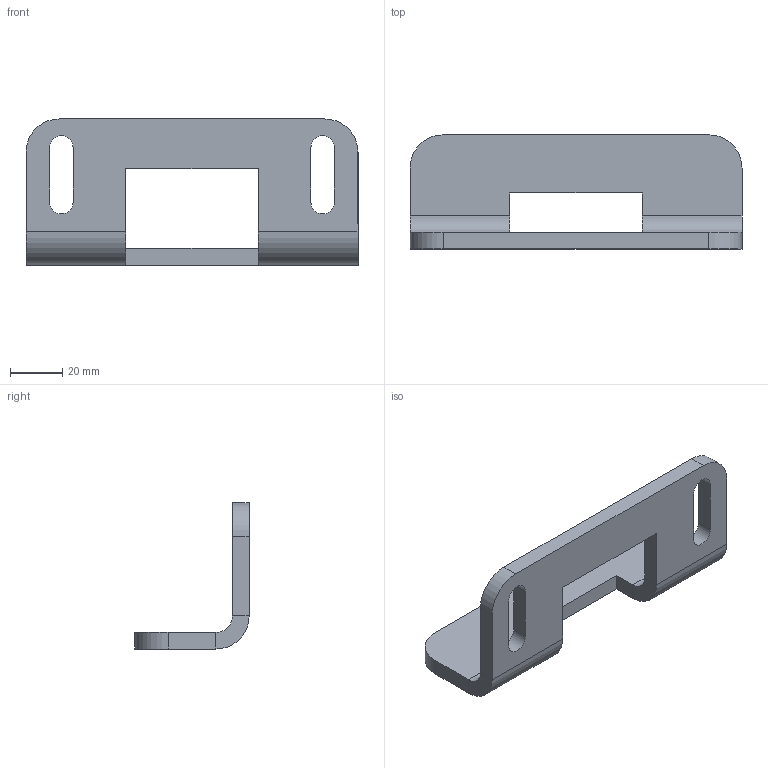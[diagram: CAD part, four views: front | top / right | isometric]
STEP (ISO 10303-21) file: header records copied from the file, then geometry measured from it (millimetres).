
FILE_DESCRIPTION (( 'STEP AP214' ), '1' );
FILE_NAME ('MISC1812HS120BWLSLT.STEP', '2021-03-08T22:54:07', ( '' ), ( '' ), 'SwSTEP 2.0', 'SolidWorks 2021', '' );
FILE_SCHEMA (( 'AUTOMOTIVE_DESIGN' ));
Length unit declared in the file: inch
Products named in the file (1): MISC1812HS120BWLSLT
Bounding box: 127 x 43.72 x 55.88 mm (x, y, z)
Volume: 52369.8 mm3; surface area: 21247 mm2
Topology: 1 solids, 1 shells, 38 faces, 98 edges, 60 vertices
Faces by surface type: plane 24, cylinder 14
Entity records: 1194 total; most frequent: DIRECTION 204, CARTESIAN_POINT 197, ORIENTED_EDGE 196, EDGE_CURVE 98, LINE 70, VECTOR 70, AXIS2_PLACEMENT_3D 67, VERTEX_POINT 60
